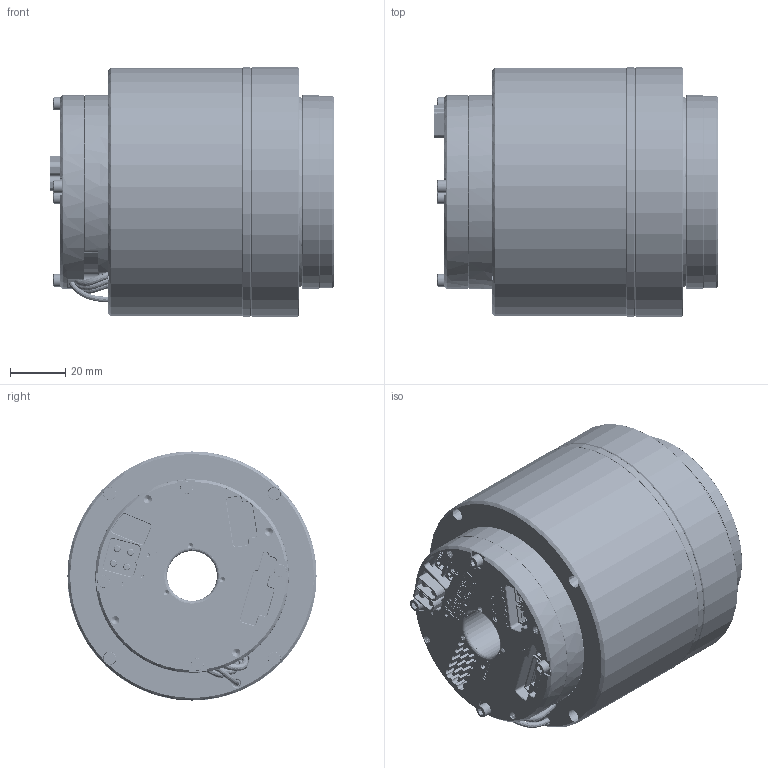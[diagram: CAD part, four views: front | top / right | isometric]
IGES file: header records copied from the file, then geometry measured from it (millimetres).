
Start section: SolidWorks IGES file using analytic representation for surfaces
Global section: file name: 06HG:\李鸿彬\00 官网需更新模型\00官网需更新模型 源文件\I型 待整理\检查\eRob90H××I-XX-18EX_V3_MC2A.DX.XX.igs; native system: SolidWorks 2021; preprocessor: SolidWorks 2021; author: ZERO; date: 240521.183807; units: millimetre
Bounding box: 102.3 x 90 x 90 mm (x, y, z)
Surface area: 61592 mm2 (no closed solid volume)
Topology: 0 solids, 0 shells, 4994 faces, 64100 edges, 64002 vertices
Faces by surface type: bspline 3065, revolution 1929
